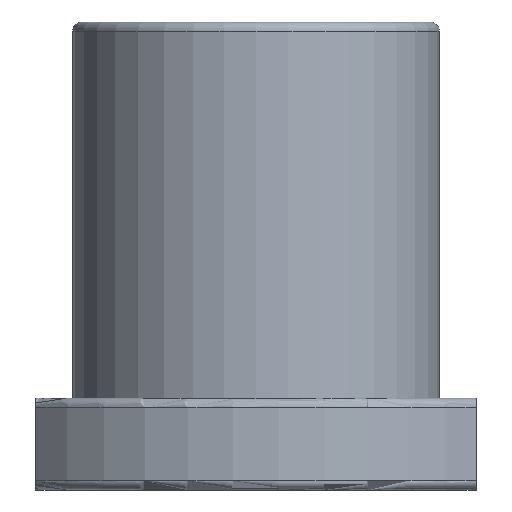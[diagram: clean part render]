
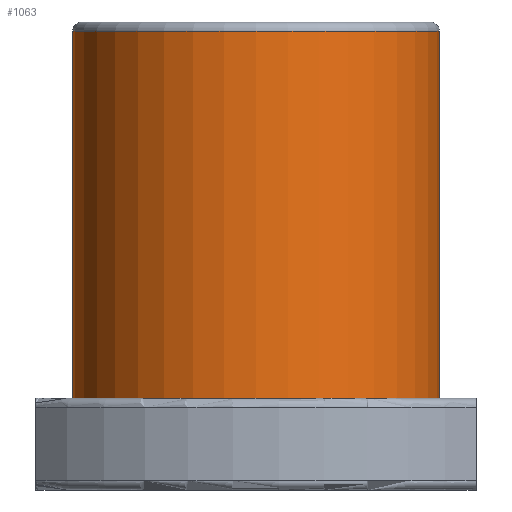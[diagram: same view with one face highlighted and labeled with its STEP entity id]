
A CAD part, front view. The second image highlights one B-rep face of the part: STEP entity #1063.
In plain terms, the highlighted cylindrical face has radius 20 mm (diameter 40 mm), a partial arc.
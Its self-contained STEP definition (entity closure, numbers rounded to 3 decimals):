
#39 = DIRECTION ( 'NONE',  ( 0., 0., -1. ) ) ;
#147 = ORIENTED_EDGE ( 'NONE', *, *, #246, .T. ) ;
#191 = CARTESIAN_POINT ( 'NONE',  ( 20., 0., 50. ) ) ;
#206 = EDGE_LOOP ( 'NONE', ( #304, #1066, #1002, #147 ) ) ;
#210 = VECTOR ( 'NONE', #39, 1000. ) ;
#217 = EDGE_CURVE ( 'NONE', #1120, #294, #399, .T. ) ;
#246 = EDGE_CURVE ( 'NONE', #889, #294, #256, .T. ) ;
#256 = CIRCLE ( 'NONE', #932, 20. ) ;
#294 = VERTEX_POINT ( 'NONE', #699 ) ;
#302 = CARTESIAN_POINT ( 'NONE',  ( 20., 0., 51. ) ) ;
#304 = ORIENTED_EDGE ( 'NONE', *, *, #217, .F. ) ;
#317 = DIRECTION ( 'NONE',  ( 0., 0., -1. ) ) ;
#325 = AXIS2_PLACEMENT_3D ( 'NONE', #929, #934, #1148 ) ;
#326 = CARTESIAN_POINT ( 'NONE',  ( -20., 0., 51. ) ) ;
#399 = LINE ( 'NONE', #302, #1099 ) ;
#471 = CARTESIAN_POINT ( 'NONE',  ( -20., 0., 50. ) ) ;
#502 = CARTESIAN_POINT ( 'NONE',  ( 0., 0., 10. ) ) ;
#518 = EDGE_CURVE ( 'NONE', #1120, #1151, #928, .T. ) ;
#585 = DIRECTION ( 'NONE',  ( 1., 0., 0. ) ) ;
#688 = CARTESIAN_POINT ( 'NONE',  ( -20., 0., 10. ) ) ;
#699 = CARTESIAN_POINT ( 'NONE',  ( 20., 0., 10. ) ) ;
#769 = DIRECTION ( 'NONE',  ( 0., 0., 1. ) ) ;
#875 = LINE ( 'NONE', #326, #210 ) ;
#889 = VERTEX_POINT ( 'NONE', #688 ) ;
#928 = CIRCLE ( 'NONE', #1014, 20. ) ;
#929 = CARTESIAN_POINT ( 'NONE',  ( 0., 0., 51. ) ) ;
#932 = AXIS2_PLACEMENT_3D ( 'NONE', #502, #769, #585 ) ;
#934 = DIRECTION ( 'NONE',  ( 0., 0., -1. ) ) ;
#962 = FACE_OUTER_BOUND ( 'NONE', #206, .T. ) ;
#1002 = ORIENTED_EDGE ( 'NONE', *, *, #1192, .T. ) ;
#1013 = DIRECTION ( 'NONE',  ( 0., 0., -1. ) ) ;
#1014 = AXIS2_PLACEMENT_3D ( 'NONE', #1096, #1013, #1191 ) ;
#1063 = ADVANCED_FACE ( 'NONE', ( #962 ), #1207, .T. ) ;
#1066 = ORIENTED_EDGE ( 'NONE', *, *, #518, .T. ) ;
#1096 = CARTESIAN_POINT ( 'NONE',  ( 0., 0., 50. ) ) ;
#1099 = VECTOR ( 'NONE', #317, 1000. ) ;
#1120 = VERTEX_POINT ( 'NONE', #191 ) ;
#1148 = DIRECTION ( 'NONE',  ( -1., 0., 0. ) ) ;
#1151 = VERTEX_POINT ( 'NONE', #471 ) ;
#1191 = DIRECTION ( 'NONE',  ( 1., 0., 0. ) ) ;
#1192 = EDGE_CURVE ( 'NONE', #1151, #889, #875, .T. ) ;
#1207 = CYLINDRICAL_SURFACE ( 'NONE', #325, 20. ) ;
